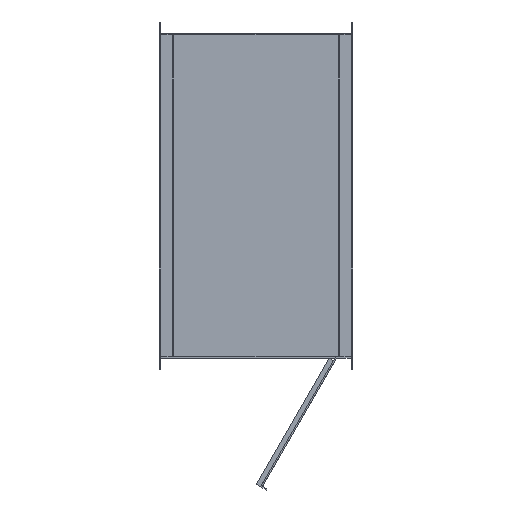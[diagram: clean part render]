
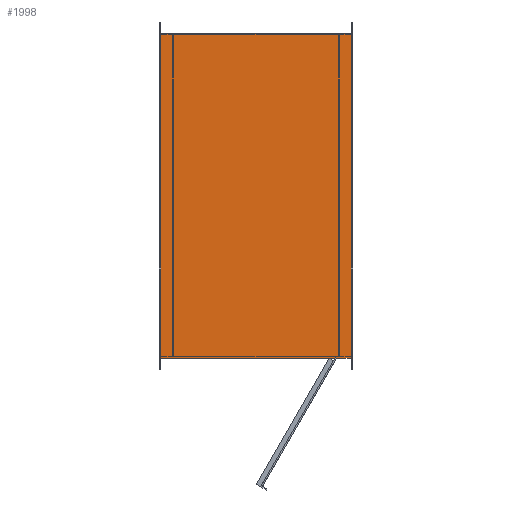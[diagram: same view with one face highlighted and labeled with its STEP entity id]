
A CAD part, left-side view. The second image highlights one B-rep face of the part: STEP entity #1998.
In plain terms, the highlighted planar face has unit normal (-1, 0, 0).
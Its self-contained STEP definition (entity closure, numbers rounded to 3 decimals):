
#155=FACE_OUTER_BOUND('',#267,.T.);
#267=EDGE_LOOP('',(#1646,#1647,#1648,#1649,#1650,#1651,#1652));
#362=LINE('',#2882,#607);
#464=LINE('',#3090,#709);
#478=LINE('',#3117,#723);
#488=LINE('',#3134,#733);
#491=LINE('',#3140,#736);
#494=LINE('',#3145,#739);
#495=LINE('',#3146,#740);
#607=VECTOR('',#2340,10.);
#709=VECTOR('',#2510,10.);
#723=VECTOR('',#2534,10.);
#733=VECTOR('',#2548,10.);
#736=VECTOR('',#2553,10.);
#739=VECTOR('',#2558,10.);
#740=VECTOR('',#2559,10.);
#854=VERTEX_POINT('',#2879);
#855=VERTEX_POINT('',#2881);
#926=VERTEX_POINT('',#3088);
#927=VERTEX_POINT('',#3089);
#935=VERTEX_POINT('',#3116);
#940=VERTEX_POINT('',#3132);
#942=VERTEX_POINT('',#3139);
#1064=EDGE_CURVE('',#855,#854,#362,.T.);
#1166=EDGE_CURVE('',#926,#927,#464,.T.);
#1180=EDGE_CURVE('',#935,#926,#478,.T.);
#1190=EDGE_CURVE('',#940,#927,#488,.F.);
#1193=EDGE_CURVE('',#935,#942,#491,.F.);
#1196=EDGE_CURVE('',#940,#855,#494,.T.);
#1197=EDGE_CURVE('',#854,#942,#495,.T.);
#1646=ORIENTED_EDGE('',*,*,#1180,.T.);
#1647=ORIENTED_EDGE('',*,*,#1166,.T.);
#1648=ORIENTED_EDGE('',*,*,#1190,.F.);
#1649=ORIENTED_EDGE('',*,*,#1196,.T.);
#1650=ORIENTED_EDGE('',*,*,#1064,.T.);
#1651=ORIENTED_EDGE('',*,*,#1197,.T.);
#1652=ORIENTED_EDGE('',*,*,#1193,.F.);
#1901=PLANE('',#2135);
#1998=ADVANCED_FACE('',(#155),#1901,.T.);
#2135=AXIS2_PLACEMENT_3D('',#3144,#2556,#2557);
#2340=DIRECTION('',(0.,1.,0.));
#2510=DIRECTION('',(0.,-0.866,-0.5));
#2534=DIRECTION('',(0.,-0.5,0.866));
#2548=DIRECTION('',(0.,-1.,0.));
#2553=DIRECTION('',(0.,-1.,0.));
#2556=DIRECTION('center_axis',(-1.,0.,0.));
#2557=DIRECTION('ref_axis',(0.,0.,1.));
#2558=DIRECTION('',(0.,0.,1.));
#2559=DIRECTION('',(0.,0.,-1.));
#2879=CARTESIAN_POINT('',(-502.,148.,252.));
#2881=CARTESIAN_POINT('',(-502.,-148.,252.));
#2882=CARTESIAN_POINT('',(-502.,-150.,252.));
#3088=CARTESIAN_POINT('',(-502.,-123.268,-251.));
#3089=CARTESIAN_POINT('',(-502.,-125.,-252.));
#3090=CARTESIAN_POINT('',(-502.,-133.942,-257.163));
#3116=CARTESIAN_POINT('',(-502.,-122.691,-252.));
#3117=CARTESIAN_POINT('',(-502.,-98.076,-294.634));
#3132=CARTESIAN_POINT('',(-502.,-148.,-252.));
#3134=CARTESIAN_POINT('',(-502.,-150.,-252.));
#3139=CARTESIAN_POINT('',(-502.,148.,-252.));
#3140=CARTESIAN_POINT('',(-502.,-150.,-252.));
#3144=CARTESIAN_POINT('Origin',(-502.,-150.,-250.));
#3145=CARTESIAN_POINT('',(-502.,-148.,-125.));
#3146=CARTESIAN_POINT('',(-502.,148.,-125.));
